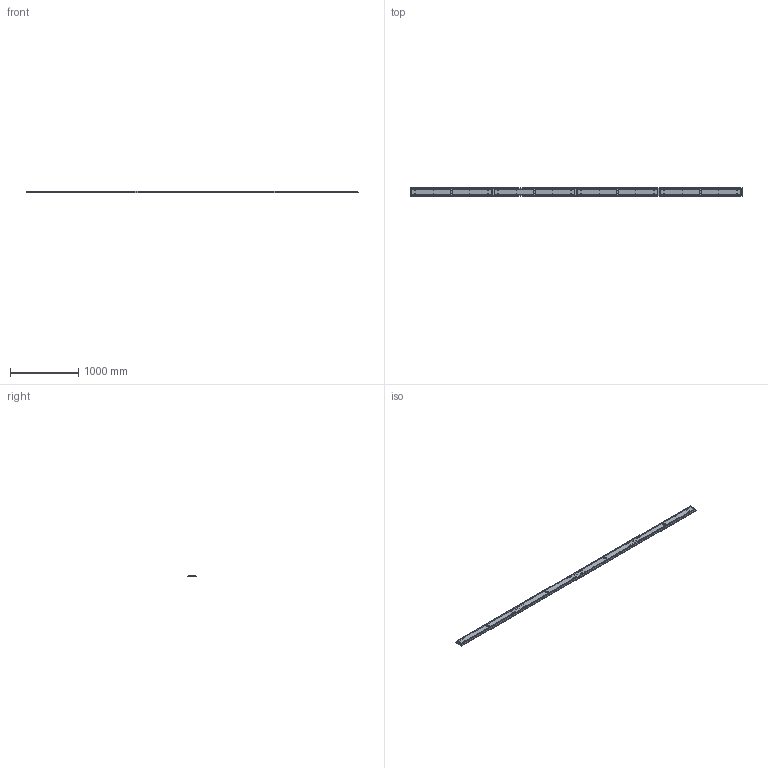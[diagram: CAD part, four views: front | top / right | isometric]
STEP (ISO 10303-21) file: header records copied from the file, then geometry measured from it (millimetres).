
FILE_DESCRIPTION(/* description */ (''),/* implementation_level */ '2;1');
FILE_NAME(/* name */ 'SkLO_Linear_Canopy_16''_MCL016_3D',/* time_stamp */ '2024-10-18T22:31:03+02:00',/* author */ (''),/* organization */ (''),/* preprocessor_version */ 'ST-DEVELOPER v16.5',/* originating_system */ 'Rhino 7.34',/* authorisation */ '');
FILE_SCHEMA (('CONFIG_CONTROL_DESIGN'));
Length unit declared in the file: millimetre
Products named in the file (1): Document
Bounding box: 4880 x 127 x 28.3 mm (x, y, z)
Volume: 3724527.7 mm3; surface area: 2580432.1 mm2
Topology: 22 solids, 46 shells, 726 faces, 1788 edges, 1160 vertices
Faces by surface type: cylinder 288, plane 282, bspline 156
Full cylindrical faces by diameter (mm): 3 x72, 5.249 x24, 6 x54, 6.2 x56, 10 x30, 40 x4
Entity records: 32179 total; most frequent: CARTESIAN_POINT 20782, ORIENTED_EDGE 3360, EDGE_CURVE 1692, VERTEX_POINT 1088, EDGE_LOOP 968, ADVANCED_FACE 726, FACE_OUTER_BOUND 726, B_SPLINE_CURVE_WITH_KNOTS 692
